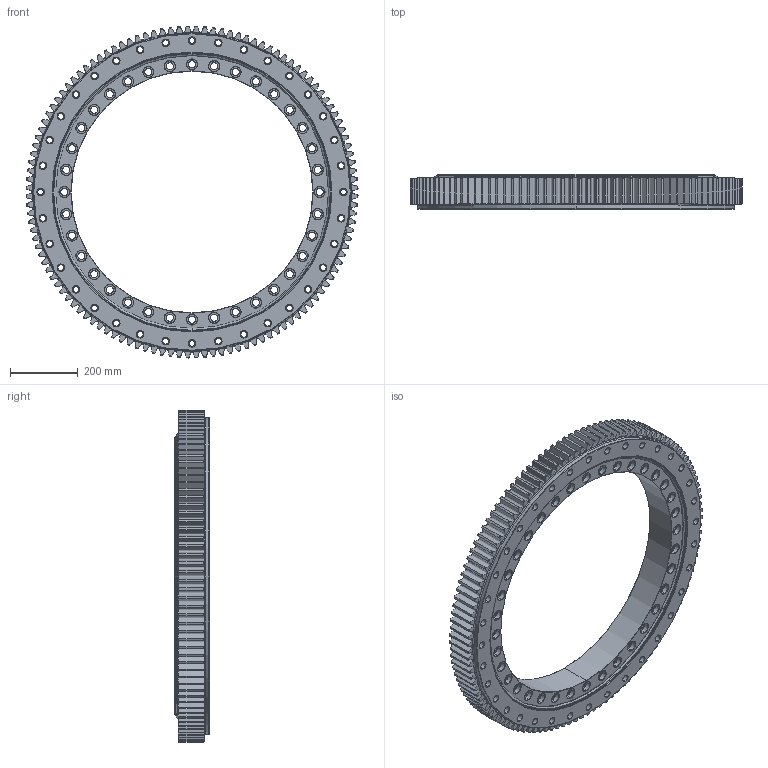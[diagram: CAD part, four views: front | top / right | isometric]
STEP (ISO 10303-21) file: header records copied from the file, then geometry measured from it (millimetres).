
FILE_DESCRIPTION (( 'STEP AP203' ), '1' );
FILE_NAME ('B2225-2-0979BB S.STEP', '2022-06-24T11:08:05', ( '' ), ( '' ), 'SwSTEP 2.0', 'SolidWorks 2020', '' );
FILE_SCHEMA (( 'CONFIG_CONTROL_DESIGN' ));
Length unit declared in the file: millimetre
Products named in the file (1): B2225-2-0979BB S
Bounding box: 978.81 x 102 x 978.81 mm (x, y, z)
Volume: 23305843.6 mm3; surface area: 2473751 mm2
Topology: 2 solids, 4 shells, 1399 faces, 3556 edges, 2222 vertices
Faces by surface type: cone 610, cylinder 436, torus 168, bspline 120, plane 65
Entity records: 72467 total; most frequent: CARTESIAN_POINT 38498, DIRECTION 7306, ORIENTED_EDGE 7112, EDGE_CURVE 3556, AXIS2_PLACEMENT_3D 3190, VERTEX_POINT 2222, CIRCLE 1910, EDGE_LOOP 1608
